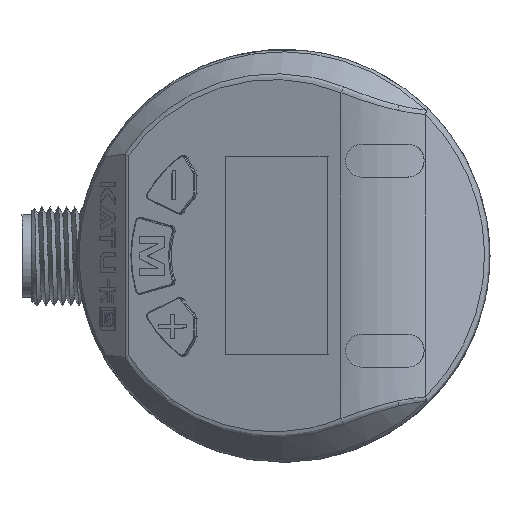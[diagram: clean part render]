
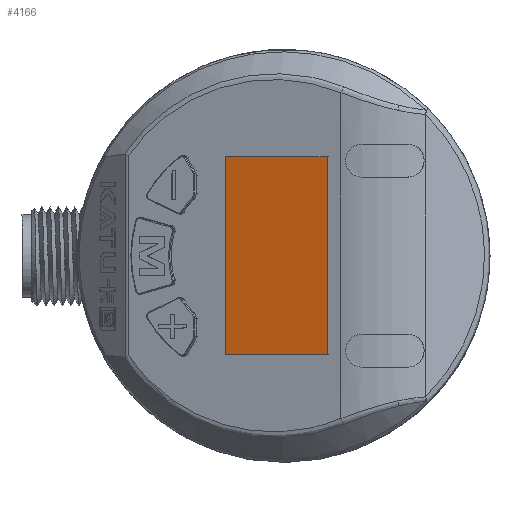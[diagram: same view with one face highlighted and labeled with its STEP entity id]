
A CAD part, top view. The second image highlights one B-rep face of the part: STEP entity #4166.
In plain terms, the highlighted planar face has unit normal (-0.342, 0, 0.94).
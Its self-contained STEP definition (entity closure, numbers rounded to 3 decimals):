
#876=LINE('',#23046,#1631);
#877=LINE('',#23049,#1632);
#878=LINE('',#23051,#1633);
#879=LINE('',#23053,#1634);
#1631=VECTOR('',#15075,1.);
#1632=VECTOR('',#15076,1.);
#1633=VECTOR('',#15077,1.);
#1634=VECTOR('',#15078,1.);
#3385=FACE_OUTER_BOUND('',#5649,.T.);
#4166=ADVANCED_FACE('',(#3385),#4541,.T.);
#4541=PLANE('',#12359);
#5649=EDGE_LOOP('',(#8353,#8354,#8355,#8356));
#8353=ORIENTED_EDGE('',*,*,#10917,.T.);
#8354=ORIENTED_EDGE('',*,*,#10918,.T.);
#8355=ORIENTED_EDGE('',*,*,#10919,.T.);
#8356=ORIENTED_EDGE('',*,*,#10920,.T.);
#9516=VERTEX_POINT('',#23047);
#9517=VERTEX_POINT('',#23048);
#9518=VERTEX_POINT('',#23050);
#9519=VERTEX_POINT('',#23052);
#10917=EDGE_CURVE('',#9516,#9517,#876,.T.);
#10918=EDGE_CURVE('',#9517,#9518,#877,.T.);
#10919=EDGE_CURVE('',#9518,#9519,#878,.T.);
#10920=EDGE_CURVE('',#9519,#9516,#879,.T.);
#12359=AXIS2_PLACEMENT_3D('',#23054,#15079,#15080);
#15075=DIRECTION('',(-0.94,0.,-0.342));
#15076=DIRECTION('',(0.,-1.,0.));
#15077=DIRECTION('',(0.94,0.,0.342));
#15078=DIRECTION('',(0.,1.,0.));
#15079=DIRECTION('',(-0.342,0.,0.94));
#15080=DIRECTION('',(-0.94,0.,-0.342));
#23046=CARTESIAN_POINT('',(45.306,12.006,121.2));
#23047=CARTESIAN_POINT('',(36.258,12.002,117.907));
#23048=CARTESIAN_POINT('',(23.939,11.997,113.423));
#23049=CARTESIAN_POINT('',(23.949,-15.759,113.427));
#23050=CARTESIAN_POINT('',(23.948,-11.997,113.426));
#23051=CARTESIAN_POINT('',(45.315,-11.988,121.203));
#23052=CARTESIAN_POINT('',(36.267,-11.992,117.91));
#23053=CARTESIAN_POINT('',(36.268,-15.753,117.91));
#23054=CARTESIAN_POINT('',(45.316,-15.75,121.204));
